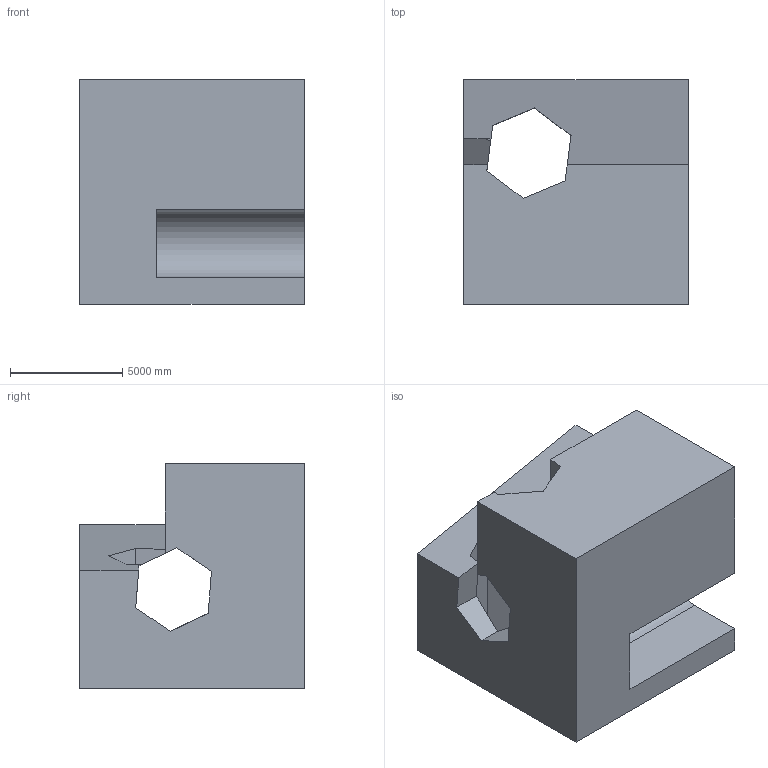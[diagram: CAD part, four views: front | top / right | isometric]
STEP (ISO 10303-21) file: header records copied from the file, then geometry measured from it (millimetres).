
FILE_DESCRIPTION (( 'STEP AP203' ), '1' );
FILE_NAME ('337.STEP', '2022-07-28T14:23:41', ( 'user' ), ( '' ), 'SwSTEP 2.0', 'SolidWorks 2021', '' );
FILE_SCHEMA (( 'CONFIG_CONTROL_DESIGN' ));
Length unit declared in the file: centimetre
Products named in the file (1): 337
Bounding box: 10000 x 10000 x 10000 mm (x, y, z)
Volume: 639846205657 mm3; surface area: 717010910.5 mm2
Topology: 1 solids, 1 shells, 33 faces, 99 edges, 66 vertices
Faces by surface type: plane 32, cylinder 1
Entity records: 1180 total; most frequent: CARTESIAN_POINT 199, ORIENTED_EDGE 198, DIRECTION 169, EDGE_CURVE 99, LINE 97, VECTOR 97, VERTEX_POINT 66, AXIS2_PLACEMENT_3D 36
